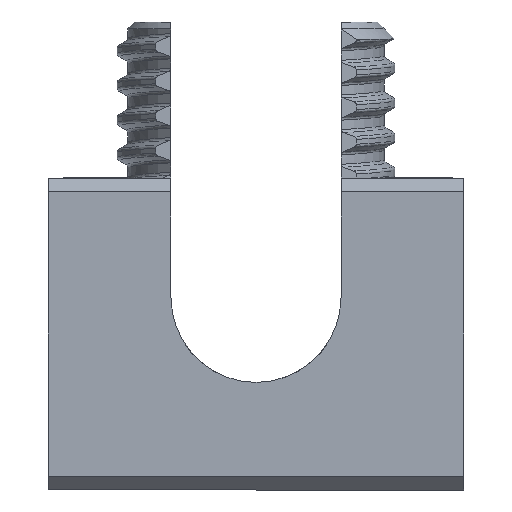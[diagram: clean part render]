
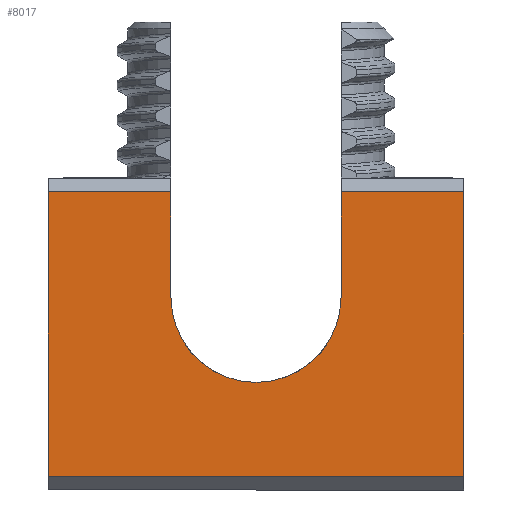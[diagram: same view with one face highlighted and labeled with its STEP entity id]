
A CAD part, front view. The second image highlights one B-rep face of the part: STEP entity #8017.
In plain terms, the highlighted planar face has unit normal (0, -1, 0).
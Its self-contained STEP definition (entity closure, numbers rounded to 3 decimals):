
#241 = EDGE_LOOP ( 'NONE', ( #29523, #19769, #19850, #10954, #11220, #1097, #11755, #4292 ) ) ;
#1097 = ORIENTED_EDGE ( 'NONE', *, *, #26887, .T. ) ;
#1241 = AXIS2_PLACEMENT_3D ( 'NONE', #1808, #13257, #2725 ) ;
#1808 = CARTESIAN_POINT ( 'NONE',  ( 0., -35., 0. ) ) ;
#2319 = CARTESIAN_POINT ( 'NONE',  ( 0., -35., -20.5 ) ) ;
#2695 = CARTESIAN_POINT ( 'NONE',  ( -30., -35., 5.272 ) ) ;
#2725 = DIRECTION ( 'NONE',  ( 0., 0., 1. ) ) ;
#2983 = EDGE_CURVE ( 'NONE', #7259, #25848, #36750, .T. ) ;
#3911 = CARTESIAN_POINT ( 'NONE',  ( -17.738, -35., 5.272 ) ) ;
#4292 = ORIENTED_EDGE ( 'NONE', *, *, #20827, .T. ) ;
#4457 = DIRECTION ( 'NONE',  ( 0., 0., 1. ) ) ;
#4618 = FACE_OUTER_BOUND ( 'NONE', #241, .T. ) ;
#5213 = EDGE_CURVE ( 'NONE', #34951, #27088, #29961, .T. ) ;
#5398 = VECTOR ( 'NONE', #9924, 1000. ) ;
#6305 = EDGE_CURVE ( 'NONE', #27088, #7259, #10105, .T. ) ;
#6628 = VECTOR ( 'NONE', #12846, 1000. ) ;
#7259 = VERTEX_POINT ( 'NONE', #30946 ) ;
#7264 = VECTOR ( 'NONE', #4457, 1000. ) ;
#8005 = CARTESIAN_POINT ( 'NONE',  ( -17.738, -35., 5.272 ) ) ;
#8017 = ADVANCED_FACE ( 'NONE', ( #4618 ), #16070, .F. ) ;
#8938 = CARTESIAN_POINT ( 'NONE',  ( -17.738, -35., 20.5 ) ) ;
#9924 = DIRECTION ( 'NONE',  ( 0., 0., 1. ) ) ;
#10105 = LINE ( 'NONE', #12719, #7264 ) ;
#10172 = VERTEX_POINT ( 'NONE', #13084 ) ;
#10954 = ORIENTED_EDGE ( 'NONE', *, *, #2983, .T. ) ;
#11017 = VERTEX_POINT ( 'NONE', #20738 ) ;
#11220 = ORIENTED_EDGE ( 'NONE', *, *, #22449, .T. ) ;
#11755 = ORIENTED_EDGE ( 'NONE', *, *, #21566, .T. ) ;
#12599 = VECTOR ( 'NONE', #33933, 1000. ) ;
#12719 = CARTESIAN_POINT ( 'NONE',  ( 0., -35., 22.5 ) ) ;
#12846 = DIRECTION ( 'NONE',  ( 1., 0., 0. ) ) ;
#13084 = CARTESIAN_POINT ( 'NONE',  ( -60., -35., 20.5 ) ) ;
#13257 = DIRECTION ( 'NONE',  ( 0., 1., 0. ) ) ;
#14517 = CARTESIAN_POINT ( 'NONE',  ( -42.262, -35., 5.272 ) ) ;
#14969 = LINE ( 'NONE', #15539, #5398 ) ;
#15539 = CARTESIAN_POINT ( 'NONE',  ( -42.262, -35., 22.5 ) ) ;
#16070 = PLANE ( 'NONE',  #1241 ) ;
#16125 = LINE ( 'NONE', #24210, #28772 ) ;
#17130 = VERTEX_POINT ( 'NONE', #3911 ) ;
#18177 = EDGE_CURVE ( 'NONE', #10172, #34951, #16125, .T. ) ;
#19769 = ORIENTED_EDGE ( 'NONE', *, *, #5213, .T. ) ;
#19850 = ORIENTED_EDGE ( 'NONE', *, *, #6305, .T. ) ;
#20071 = LINE ( 'NONE', #20249, #27596 ) ;
#20249 = CARTESIAN_POINT ( 'NONE',  ( -60., -35., 20.5 ) ) ;
#20738 = CARTESIAN_POINT ( 'NONE',  ( -42.262, -35., 20.5 ) ) ;
#20827 = EDGE_CURVE ( 'NONE', #11017, #10172, #20071, .T. ) ;
#21354 = AXIS2_PLACEMENT_3D ( 'NONE', #2695, #22598, #22776 ) ;
#21566 = EDGE_CURVE ( 'NONE', #24539, #11017, #14969, .T. ) ;
#22449 = EDGE_CURVE ( 'NONE', #25848, #17130, #36533, .T. ) ;
#22598 = DIRECTION ( 'NONE',  ( 0., 1., 0. ) ) ;
#22776 = DIRECTION ( 'NONE',  ( 0., 0., 1. ) ) ;
#24210 = CARTESIAN_POINT ( 'NONE',  ( -60., -35., -22.5 ) ) ;
#24539 = VERTEX_POINT ( 'NONE', #14517 ) ;
#25848 = VERTEX_POINT ( 'NONE', #36515 ) ;
#26887 = EDGE_CURVE ( 'NONE', #17130, #24539, #33374, .T. ) ;
#27088 = VERTEX_POINT ( 'NONE', #2319 ) ;
#27129 = CARTESIAN_POINT ( 'NONE',  ( 0., -35., -20.5 ) ) ;
#27596 = VECTOR ( 'NONE', #31717, 1000. ) ;
#28772 = VECTOR ( 'NONE', #33598, 1000. ) ;
#29523 = ORIENTED_EDGE ( 'NONE', *, *, #18177, .T. ) ;
#29961 = LINE ( 'NONE', #27129, #6628 ) ;
#30946 = CARTESIAN_POINT ( 'NONE',  ( 0., -35., 20.5 ) ) ;
#31717 = DIRECTION ( 'NONE',  ( -1., 0., 0. ) ) ;
#33163 = DIRECTION ( 'NONE',  ( 0., 0., -1. ) ) ;
#33374 = CIRCLE ( 'NONE', #21354, 12.262 ) ;
#33598 = DIRECTION ( 'NONE',  ( 0., 0., -1. ) ) ;
#33933 = DIRECTION ( 'NONE',  ( -1., 0., 0. ) ) ;
#33963 = CARTESIAN_POINT ( 'NONE',  ( -60., -35., -20.5 ) ) ;
#34951 = VERTEX_POINT ( 'NONE', #33963 ) ;
#35355 = VECTOR ( 'NONE', #33163, 1000. ) ;
#36515 = CARTESIAN_POINT ( 'NONE',  ( -17.738, -35., 20.5 ) ) ;
#36533 = LINE ( 'NONE', #8005, #35355 ) ;
#36750 = LINE ( 'NONE', #8938, #12599 ) ;
